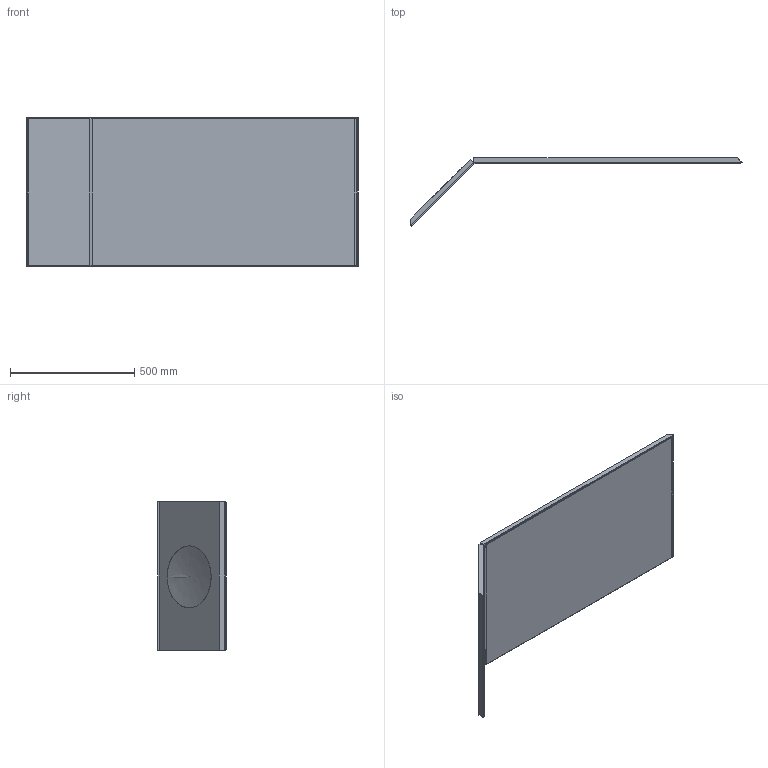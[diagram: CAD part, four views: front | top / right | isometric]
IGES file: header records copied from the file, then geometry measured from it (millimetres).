
Start section: Data from Parasolid IGES Translator 19.0.9, Copyright(c) 2006 Siemens PL M Software. All Rights Reserved.
Global section: file name: noorth-mirror-H 60 D 2,5 W 144_4240.igs; native system: By Siemens PLM Incorporated; preprocessor: XPlus GENERIC/IGES 19.0.9; author: Noname; organization: Noname; date: 20210721.092350; units: metre
Bounding box: 1337.36 x 274.85 x 600 mm (x, y, z)
Volume: 19252583.8 mm3; surface area: 3700537.4 mm2
Topology: 7 solids, 7 shells, 101 faces, 215 edges, 127 vertices
Faces by surface type: plane 83, cylinder 15, bspline 3
Full cylindrical faces by diameter (mm): 250 x1
